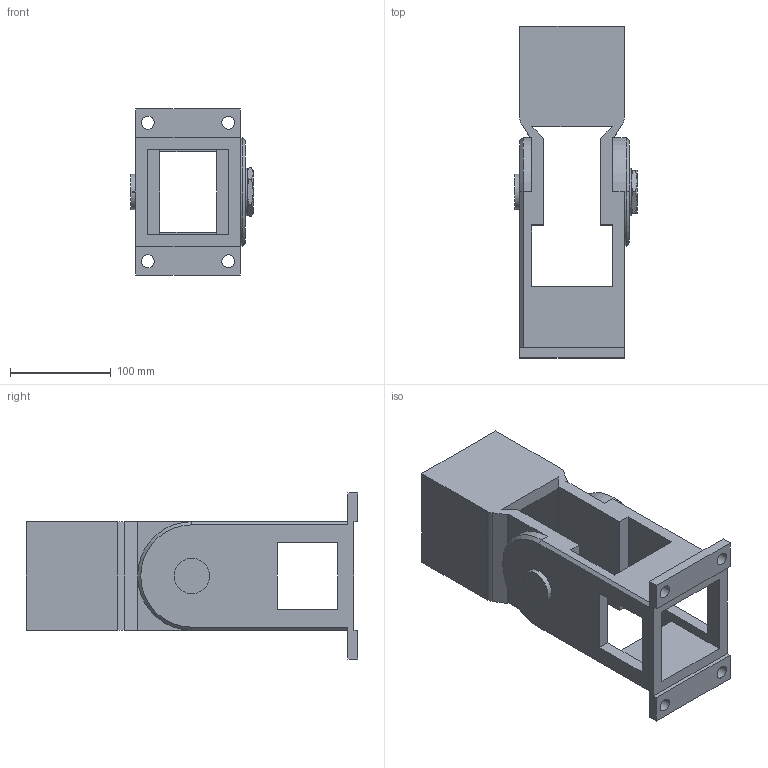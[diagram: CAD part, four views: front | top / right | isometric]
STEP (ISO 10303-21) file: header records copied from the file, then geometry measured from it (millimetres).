
FILE_DESCRIPTION((''),'1');
FILE_NAME('7','2001-04-17T',('jlue'),(''),'PRO/ENGINEER BY PARAMETRIC TECHNOLOGY CORPORATION, 9846','PRO/ENGINEER BY PARAMETRIC TECHNOLOGY CORPORATION, 9846','');
FILE_SCHEMA(('CONFIG_CONTROL_DESIGN'));
Length unit declared in the file: inch
Products named in the file (1): 7
Bounding box: 121.62 x 329.95 x 165.1 mm (x, y, z)
Surface area: 231692.9 mm2 (no closed solid volume)
Topology: 0 solids, 0 shells, 92 faces, 508 edges, 514 vertices
Faces by surface type: plane 60, cylinder 17, cone 15
Entity records: 2649 total; most frequent: COMPOSITE_CURVE_SEGMENT 502, DIRECTION 484, CARTESIAN_POINT 483, TRIMMED_CURVE 239, VECTOR 178, LINE 178, AXIS2_PLACEMENT_3D 153, CURVE_BOUNDED_SURFACE 92
